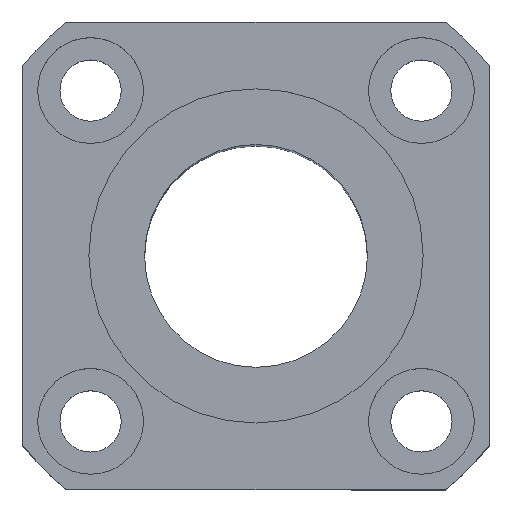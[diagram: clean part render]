
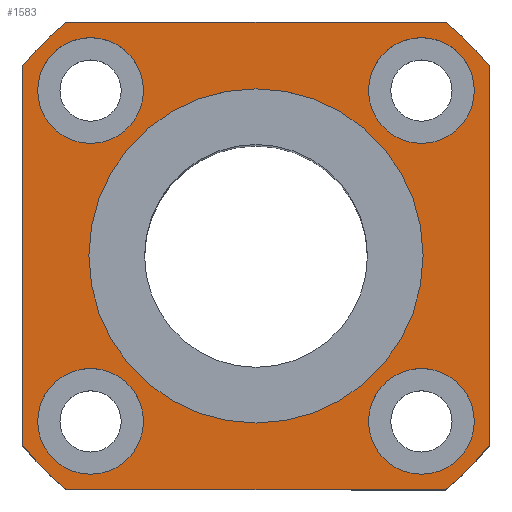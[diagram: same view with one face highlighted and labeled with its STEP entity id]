
A CAD part, top view. The second image highlights one B-rep face of the part: STEP entity #1583.
In plain terms, the highlighted planar face has unit normal (0, 0, 1).
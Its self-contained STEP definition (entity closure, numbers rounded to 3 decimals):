
#133=CARTESIAN_POINT('',(-15.0,0.,80.0));
#134=VERTEX_POINT('',#133);
#143=CARTESIAN_POINT('',(15.0,0.,80.0));
#144=VERTEX_POINT('',#143);
#145=CARTESIAN_POINT('',(0.0,0.0,80.0));
#146=DIRECTION('',(0.0,0.0,-1.0));
#147=DIRECTION('',(-1.0,0.0,0.0));
#148=AXIS2_PLACEMENT_3D('',#145,#146,#147);
#149=CIRCLE('',#148,15.0);
#150=EDGE_CURVE('',#144,#134,#149,.T.);
#303=CARTESIAN_POINT('',(-10.099,14.849,80.0));
#304=VERTEX_POINT('',#303);
#320=CARTESIAN_POINT('',(-19.599,14.849,80.0));
#321=VERTEX_POINT('',#320);
#328=CARTESIAN_POINT('',(-14.849,14.849,80.0));
#329=DIRECTION('',(0.0,0.0,-1.0));
#330=DIRECTION('',(1.0,0.0,0.0));
#331=AXIS2_PLACEMENT_3D('',#328,#329,#330);
#332=CIRCLE('',#331,4.75);
#333=EDGE_CURVE('',#304,#321,#332,.T.);
#429=CARTESIAN_POINT('',(-14.849,-10.099,80.0));
#430=VERTEX_POINT('',#429);
#446=CARTESIAN_POINT('',(-14.849,-19.599,80.0));
#447=VERTEX_POINT('',#446);
#454=CARTESIAN_POINT('',(-14.849,-14.849,80.0));
#455=DIRECTION('',(0.0,0.0,-1.0));
#456=DIRECTION('',(0.0,1.0,0.0));
#457=AXIS2_PLACEMENT_3D('',#454,#455,#456);
#458=CIRCLE('',#457,4.75);
#459=EDGE_CURVE('',#430,#447,#458,.T.);
#555=CARTESIAN_POINT('',(10.099,-14.849,80.0));
#556=VERTEX_POINT('',#555);
#572=CARTESIAN_POINT('',(19.599,-14.849,80.0));
#573=VERTEX_POINT('',#572);
#580=CARTESIAN_POINT('',(14.849,-14.849,80.0));
#581=DIRECTION('',(0.0,0.0,-1.0));
#582=DIRECTION('',(-1.0,0.0,0.0));
#583=AXIS2_PLACEMENT_3D('',#580,#581,#582);
#584=CIRCLE('',#583,4.75);
#585=EDGE_CURVE('',#556,#573,#584,.T.);
#681=CARTESIAN_POINT('',(14.849,10.099,80.0));
#682=VERTEX_POINT('',#681);
#698=CARTESIAN_POINT('',(14.849,19.599,80.0));
#699=VERTEX_POINT('',#698);
#706=CARTESIAN_POINT('',(14.849,14.849,80.0));
#707=DIRECTION('',(0.0,0.0,-1.0));
#708=DIRECTION('',(0.0,-1.0,0.0));
#709=AXIS2_PLACEMENT_3D('',#706,#707,#708);
#710=CIRCLE('',#709,4.75);
#711=EDGE_CURVE('',#682,#699,#710,.T.);
#769=CARTESIAN_POINT('',(14.849,14.849,80.0));
#770=DIRECTION('',(0.0,0.0,-1.0));
#771=DIRECTION('',(0.0,-1.0,0.0));
#772=AXIS2_PLACEMENT_3D('',#769,#770,#771);
#773=CIRCLE('',#772,4.75);
#774=EDGE_CURVE('',#699,#682,#773,.T.);
#873=CARTESIAN_POINT('',(14.849,-14.849,80.0));
#874=DIRECTION('',(0.0,0.0,-1.0));
#875=DIRECTION('',(-1.0,0.0,0.0));
#876=AXIS2_PLACEMENT_3D('',#873,#874,#875);
#877=CIRCLE('',#876,4.75);
#878=EDGE_CURVE('',#573,#556,#877,.T.);
#977=CARTESIAN_POINT('',(-14.849,-14.849,80.0));
#978=DIRECTION('',(0.0,0.0,-1.0));
#979=DIRECTION('',(0.0,1.0,0.0));
#980=AXIS2_PLACEMENT_3D('',#977,#978,#979);
#981=CIRCLE('',#980,4.75);
#982=EDGE_CURVE('',#447,#430,#981,.T.);
#1081=CARTESIAN_POINT('',(-14.849,14.849,80.0));
#1082=DIRECTION('',(0.0,0.0,-1.0));
#1083=DIRECTION('',(1.0,0.0,0.0));
#1084=AXIS2_PLACEMENT_3D('',#1081,#1082,#1083);
#1085=CIRCLE('',#1084,4.75);
#1086=EDGE_CURVE('',#321,#304,#1085,.T.);
#1147=CARTESIAN_POINT('',(-21.,-16.971,80.0));
#1148=VERTEX_POINT('',#1147);
#1155=CARTESIAN_POINT('',(-21.,16.971,80.0));
#1156=VERTEX_POINT('',#1155);
#1157=CARTESIAN_POINT('',(-21.,16.971,80.0));
#1158=DIRECTION('',(0.0,-1.0,0.0));
#1159=VECTOR('',#1158,33.941);
#1160=LINE('',#1157,#1159);
#1161=EDGE_CURVE('',#1156,#1148,#1160,.T.);
#1186=CARTESIAN_POINT('',(-16.971,-21.,80.0));
#1187=VERTEX_POINT('',#1186);
#1194=CARTESIAN_POINT('',(0.0,0.0,80.0));
#1195=DIRECTION('',(0.0,0.0,1.0));
#1196=DIRECTION('',(1.0,0.0,0.0));
#1197=AXIS2_PLACEMENT_3D('',#1194,#1195,#1196);
#1198=CIRCLE('',#1197,27.0);
#1199=EDGE_CURVE('',#1148,#1187,#1198,.T.);
#1218=CARTESIAN_POINT('',(16.971,-21.,80.0));
#1219=VERTEX_POINT('',#1218);
#1226=CARTESIAN_POINT('',(-16.971,-21.,80.0));
#1227=DIRECTION('',(1.0,0.0,0.0));
#1228=VECTOR('',#1227,33.941);
#1229=LINE('',#1226,#1228);
#1230=EDGE_CURVE('',#1187,#1219,#1229,.T.);
#1250=CARTESIAN_POINT('',(21.0,-16.971,80.0));
#1251=VERTEX_POINT('',#1250);
#1258=CARTESIAN_POINT('',(0.0,0.0,80.0));
#1259=DIRECTION('',(0.0,0.0,1.0));
#1260=DIRECTION('',(1.0,0.0,0.0));
#1261=AXIS2_PLACEMENT_3D('',#1258,#1259,#1260);
#1262=CIRCLE('',#1261,27.0);
#1263=EDGE_CURVE('',#1219,#1251,#1262,.T.);
#1282=CARTESIAN_POINT('',(21.0,16.971,80.0));
#1283=VERTEX_POINT('',#1282);
#1290=CARTESIAN_POINT('',(21.0,-16.971,80.0));
#1291=DIRECTION('',(0.0,1.0,0.0));
#1292=VECTOR('',#1291,33.941);
#1293=LINE('',#1290,#1292);
#1294=EDGE_CURVE('',#1251,#1283,#1293,.T.);
#1314=CARTESIAN_POINT('',(16.971,21.0,80.0));
#1315=VERTEX_POINT('',#1314);
#1322=CARTESIAN_POINT('',(0.0,0.0,80.0));
#1323=DIRECTION('',(0.0,0.0,1.0));
#1324=DIRECTION('',(1.0,0.0,0.0));
#1325=AXIS2_PLACEMENT_3D('',#1322,#1323,#1324);
#1326=CIRCLE('',#1325,27.0);
#1327=EDGE_CURVE('',#1283,#1315,#1326,.T.);
#1346=CARTESIAN_POINT('',(-16.971,21.0,80.0));
#1347=VERTEX_POINT('',#1346);
#1354=CARTESIAN_POINT('',(16.971,21.0,80.0));
#1355=DIRECTION('',(-1.0,0.0,0.0));
#1356=VECTOR('',#1355,33.941);
#1357=LINE('',#1354,#1356);
#1358=EDGE_CURVE('',#1315,#1347,#1357,.T.);
#1377=CARTESIAN_POINT('',(0.0,0.0,80.0));
#1378=DIRECTION('',(0.0,0.0,1.0));
#1379=DIRECTION('',(1.0,0.0,0.0));
#1380=AXIS2_PLACEMENT_3D('',#1377,#1378,#1379);
#1381=CIRCLE('',#1380,27.0);
#1382=EDGE_CURVE('',#1347,#1156,#1381,.T.);
#1502=CARTESIAN_POINT('',(0.0,0.0,80.0));
#1503=DIRECTION('',(0.0,0.0,-1.0));
#1504=DIRECTION('',(-1.0,0.0,0.0));
#1505=AXIS2_PLACEMENT_3D('',#1502,#1503,#1504);
#1506=CIRCLE('',#1505,15.0);
#1507=EDGE_CURVE('',#134,#144,#1506,.T.);
#1548=CARTESIAN_POINT('',(0.0,0.0,80.0));
#1549=DIRECTION('',(0.0,0.0,-1.0));
#1550=DIRECTION('',(-1.0,0.0,0.0));
#1551=AXIS2_PLACEMENT_3D('',#1548,#1549,#1550);
#1552=PLANE('',#1551);
#1553=ORIENTED_EDGE('',*,*,#1382,.T.);
#1554=ORIENTED_EDGE('',*,*,#1161,.T.);
#1555=ORIENTED_EDGE('',*,*,#1199,.T.);
#1556=ORIENTED_EDGE('',*,*,#1230,.T.);
#1557=ORIENTED_EDGE('',*,*,#1263,.T.);
#1558=ORIENTED_EDGE('',*,*,#1294,.T.);
#1559=ORIENTED_EDGE('',*,*,#1327,.T.);
#1560=ORIENTED_EDGE('',*,*,#1358,.T.);
#1561=EDGE_LOOP('',(#1553,#1554,#1555,#1556,#1557,#1558,#1559,#1560));
#1562=FACE_OUTER_BOUND('',#1561,.T.);
#1563=ORIENTED_EDGE('',*,*,#711,.T.);
#1564=ORIENTED_EDGE('',*,*,#774,.T.);
#1565=EDGE_LOOP('',(#1563,#1564));
#1566=FACE_BOUND('',#1565,.T.);
#1567=ORIENTED_EDGE('',*,*,#585,.T.);
#1568=ORIENTED_EDGE('',*,*,#878,.T.);
#1569=EDGE_LOOP('',(#1567,#1568));
#1570=FACE_BOUND('',#1569,.T.);
#1571=ORIENTED_EDGE('',*,*,#459,.T.);
#1572=ORIENTED_EDGE('',*,*,#982,.T.);
#1573=EDGE_LOOP('',(#1571,#1572));
#1574=FACE_BOUND('',#1573,.T.);
#1575=ORIENTED_EDGE('',*,*,#333,.T.);
#1576=ORIENTED_EDGE('',*,*,#1086,.T.);
#1577=EDGE_LOOP('',(#1575,#1576));
#1578=FACE_BOUND('',#1577,.T.);
#1579=ORIENTED_EDGE('',*,*,#150,.T.);
#1580=ORIENTED_EDGE('',*,*,#1507,.T.);
#1581=EDGE_LOOP('',(#1579,#1580));
#1582=FACE_BOUND('',#1581,.T.);
#1583=ADVANCED_FACE('',(#1562,#1566,#1570,#1574,#1578,#1582),#1552,.F.);
